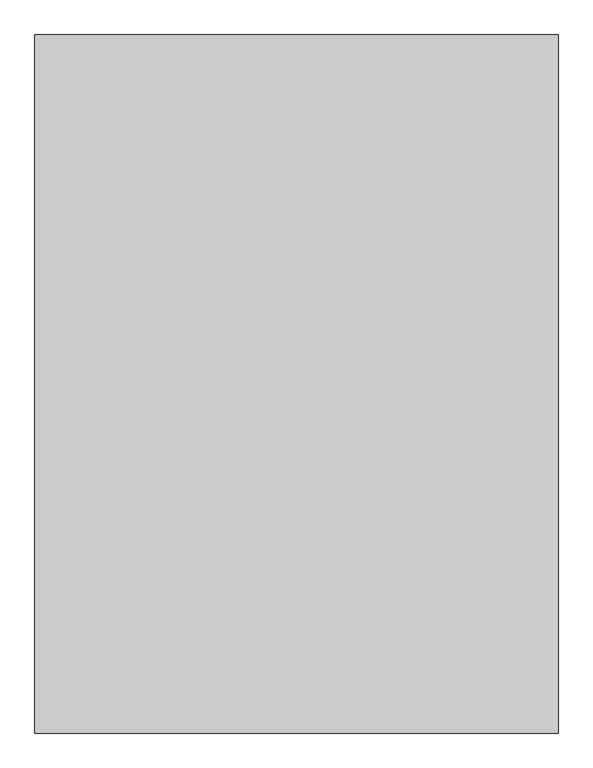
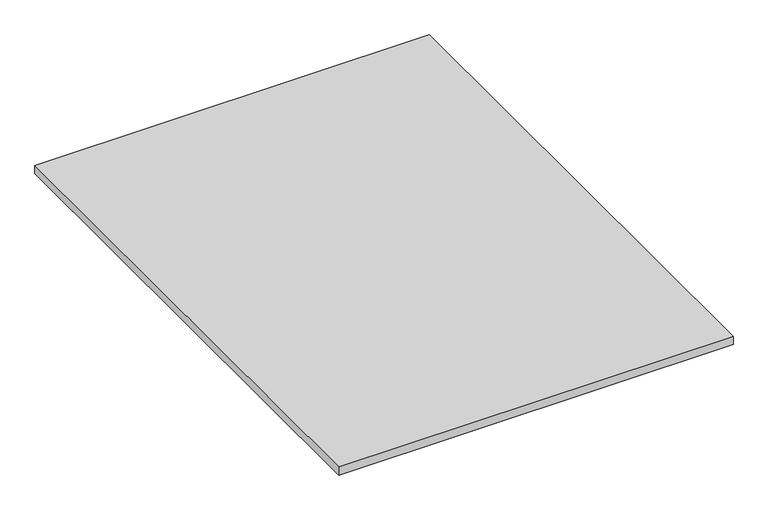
"""IFC4 building model written with IfcOpenShell, lengths in millimetres: proxy geometry, Base de duche15 : Base de duche."""

from ifc_helpers import new_model, si_unit, origin, origin_with_axes, place, context, project, spatial, polyline, outline, extrude, source, transform, mapped, element, save


def generic_models_cdd67697(model_context):
    return source(origin(), model_context, "Body", "SweptSolid", [
        extrude(outline(polyline([(23752.000777, 16442.1029258), (23752.000777, 15242.1029258), (22852.000777, 15242.1029258), (22852.000777, 16442.1029258), (23752.000777, 16442.1029258)])), origin_with_axes(), (0.0, 0.0, 1.0), 20.0),
    ])


if __name__ == "__main__":
    model = new_model("IFC4")
    model_context = context("Model", 3, world=origin())
    ifc_project = project(units=[si_unit("LENGTHUNIT", "METRE", prefix="MILLI")], contexts=[model_context])
    site = spatial("IfcSite", under=ifc_project)
    building = spatial("IfcBuilding", under=site)
    placement = place(None, origin())
    generic_models_shape = generic_models_cdd67697(model_context)
    element("IfcBuildingElementProxy", 1, Name="Base de duche15 : Base de duche", ObjectType="Base de duche15 : Base de duche", at=placement, inside=building, context=model_context, shape_type="MappedRepresentation", body=[
        mapped(generic_models_shape, transform((0.0, 0.0, 0.0), x_axis=(1.0, 0.0, 0.0), y_axis=(0.0, 1.0, 0.0), z_axis=(0.0, 0.0, 1.0))),
    ])
    save(model, "model.ifc")
